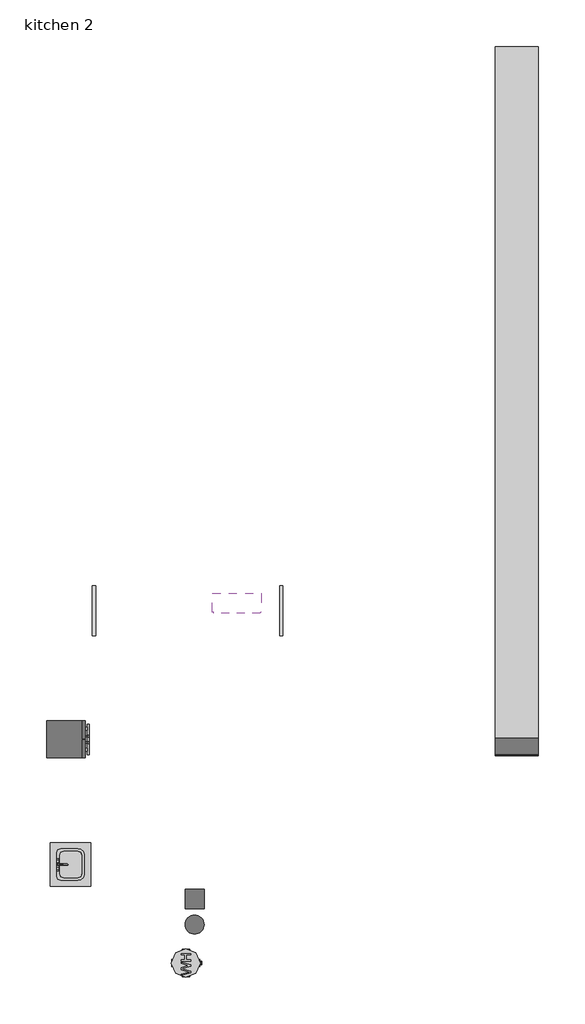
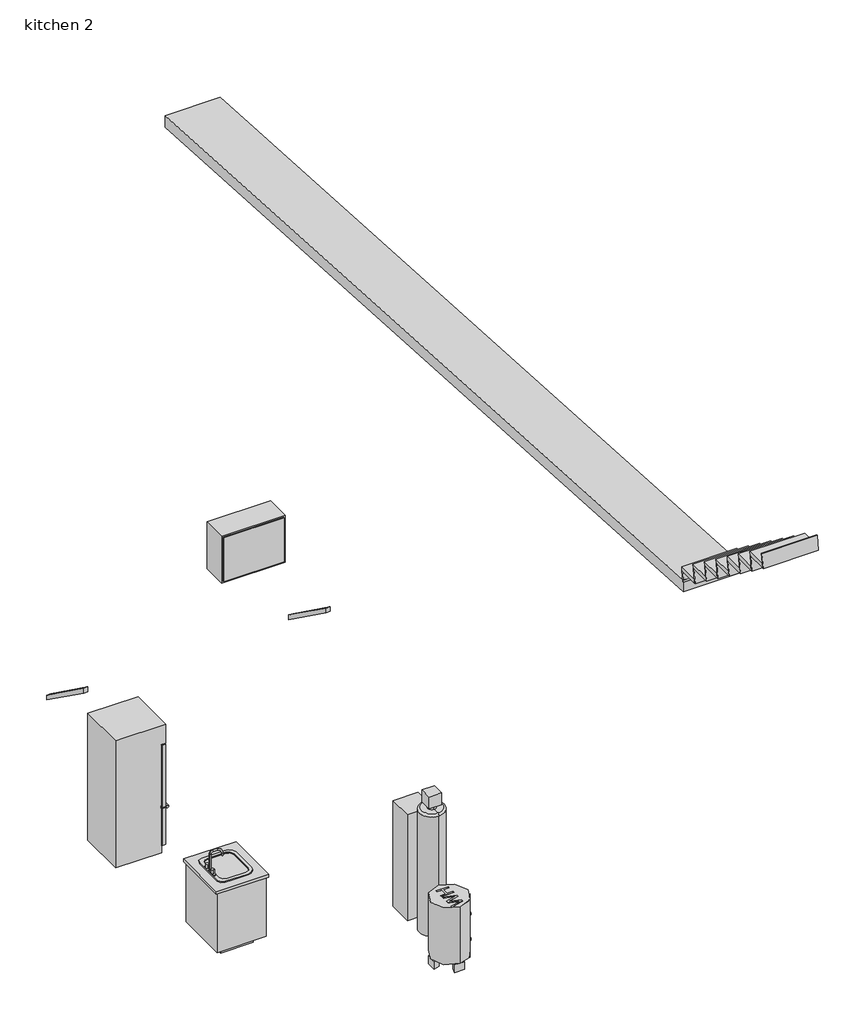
# One storey, incomplete: 4 proxies, 2 railings, 1 flow terminal, 1 furniture element, 1 ramp, 1 stair flight.
"""IFC4 building model written with IfcOpenShell, lengths in millimetres."""

from ifc_helpers import new_model, si_unit, origin, place, context, project, spatial, transform, mapped, element, save
from components import countertop_rectangle_shape_base_default_1_bba48ae2, default_1_1a27af5c, fridge_default_1_af30f6d3, hot_water_heater_default_1_dcdfe45b, bath_basin_do_not_use_500_x_440mm_22030706, furniture_3052ab14, railing_900mm_rectangular_stringer_only_fa480b6c, railing_900mm_rectangular_stringer_only_155df698, ramp_1_ca8601dd, stair_flight_50mm_tread_25mm_nosing_13mm_riser_18002d72

model = new_model("IFC4")

# Units and contexts
model_context = context("Model", 3, world=origin())
ifc_project = project(units=[si_unit("LENGTHUNIT", "METRE", prefix="MILLI")], contexts=[model_context])

# Site, building, storey
site = spatial("IfcSite", under=ifc_project)
building = spatial("IfcBuilding", under=site)
storey = spatial("IfcBuildingStorey", under=building, Name="kitchen 2", Elevation=-1981.2)

# Proxies
placement = place(None, origin())
countertop_rectangle_shape_base_default_1_shape = countertop_rectangle_shape_base_default_1_bba48ae2(model_context)
element("IfcBuildingElementProxy", 1, Name="Countertop- Rectangle shape base : Default 1", ObjectType="Countertop- Rectangle shape base : Default 1", at=placement, inside=storey, context=model_context, shape_type="MappedRepresentation", body=[
    mapped(countertop_rectangle_shape_base_default_1_shape, transform((-6256.3383, -1168.7325215, -1981.2), x_axis=(1.0, 0.0, 0.0), y_axis=(0.0, 1.0, 0.0), z_axis=(0.0, 0.0, 1.0))),
])
default_1_shape = default_1_1a27af5c(model_context)
element("IfcBuildingElementProxy", 2, Name="Water Softener : Default 1", ObjectType="Water Softener : Default 1", at=placement, inside=storey, context=model_context, shape_type="MappedRepresentation", body=[
    mapped(default_1_shape, transform((-3517.9, -1743.6060556, -1981.2), x_axis=(0.0, 1.0, 0.0), y_axis=(-1.0, 0.0, 0.0), z_axis=(0.0, 0.0, 1.0))),
])
fridge_default_1_shape = fridge_default_1_af30f6d3(model_context)
element("IfcBuildingElementProxy", 3, Name="Fridge : Default 1", ObjectType="Fridge : Default 1", at=placement, inside=storey, context=model_context, shape_type="MappedRepresentation", body=[
    mapped(fridge_default_1_shape, transform((-5973.75, 1204.1084758, -1981.2), x_axis=(0.0, 1.0, 0.0), y_axis=(-1.0, 0.0, 0.0), z_axis=(0.0, 0.0, 1.0))),
])
hot_water_heater_default_1_shape = hot_water_heater_default_1_dcdfe45b(model_context)
element("IfcBuildingElementProxy", 4, Name="Hot Water Heater : Default 1", ObjectType="Hot Water Heater : Default 1", at=placement, inside=storey, context=model_context, shape_type="MappedRepresentation", body=[
    mapped(hot_water_heater_default_1_shape, transform((-3657.6, -2355.85, -1981.2), x_axis=(0.0, 1.0, 0.0), y_axis=(-1.0, 0.0, 0.0), z_axis=(0.0, 0.0, 1.0))),
])

# Flow terminal
bath_basin_do_not_use_500_x_440mm_shape = bath_basin_do_not_use_500_x_440mm_22030706(model_context)
element("IfcFlowTerminal", 5, ObjectType="Bath-Basin DO NOT USE : 500 x 440mm", at=placement, inside=storey, context=model_context, shape_type="MappedRepresentation", body=[
    mapped(bath_basin_do_not_use_500_x_440mm_shape, transform((-5534.1928989, -803.421762, -1828.8), x_axis=(0.0, 1.0, 0.0), y_axis=(-1.0, 0.0, 0.0), z_axis=(0.0, 0.0, 1.0))),
])

# Furniture
furniture_shape = furniture_3052ab14(model_context)
element("IfcFurniture", 6, ObjectType="Upper Cabinet-Single Door-Wall : 15\"", at=placement, inside=storey, context=model_context, shape_type="MappedRepresentation", body=[
    mapped(furniture_shape, transform((-2976.3469335, 3581.4, -2133.6), x_axis=(-1.0, 0.0, 0.0), y_axis=(0.0, -1.0, 0.0), z_axis=(0.0, 0.0, 1.0))),
])

# Railings
railing_900mm_rectangular_stringer_only_shape = railing_900mm_rectangular_stringer_only_fa480b6c(model_context)
element("IfcRailing", 7, ObjectType="900mm Rectangular Stringer Only", at=placement, inside=storey, context=model_context, shape_type="MappedRepresentation", body=[
    mapped(railing_900mm_rectangular_stringer_only_shape, transform((0.0, 0.0, 0.0), x_axis=(1.0, 0.0, 0.0), y_axis=(0.0, 1.0, 0.0), z_axis=(0.0, 0.0, 1.0))),
])
railing_900mm_rectangular_stringer_only_2_shape = railing_900mm_rectangular_stringer_only_155df698(model_context)
element("IfcRailing", 8, ObjectType="900mm Rectangular Stringer Only", at=placement, inside=storey, context=model_context, shape_type="MappedRepresentation", body=[
    mapped(railing_900mm_rectangular_stringer_only_2_shape, transform((0.0, 0.0, 0.0), x_axis=(1.0, 0.0, 0.0), y_axis=(0.0, 1.0, 0.0), z_axis=(0.0, 0.0, 1.0))),
])

# Ramp
ramp_1_shape = ramp_1_ca8601dd(model_context)
element("IfcRamp", 9, ObjectType="Ramp 1", at=placement, inside=storey, context=model_context, shape_type="MappedRepresentation", body=[
    mapped(ramp_1_shape, transform((0.0, 0.0, 0.0), x_axis=(1.0, 0.0, 0.0), y_axis=(0.0, 1.0, 0.0), z_axis=(0.0, 0.0, 1.0))),
])

# Stair flight
stair_flight_50mm_tread_25mm_nosing_13mm_riser_shape = stair_flight_50mm_tread_25mm_nosing_13mm_riser_18002d72(model_context)
element("IfcStairFlight", 10, ObjectType="50mm Tread 25mm Nosing 13mm Riser", at=placement, inside=storey, context=model_context, shape_type="MappedRepresentation", body=[
    mapped(stair_flight_50mm_tread_25mm_nosing_13mm_riser_shape, transform((0.0, 0.0, 0.0), x_axis=(1.0, 0.0, 0.0), y_axis=(0.0, 1.0, 0.0), z_axis=(0.0, 0.0, 1.0))),
])

save(model, "model.ifc")
